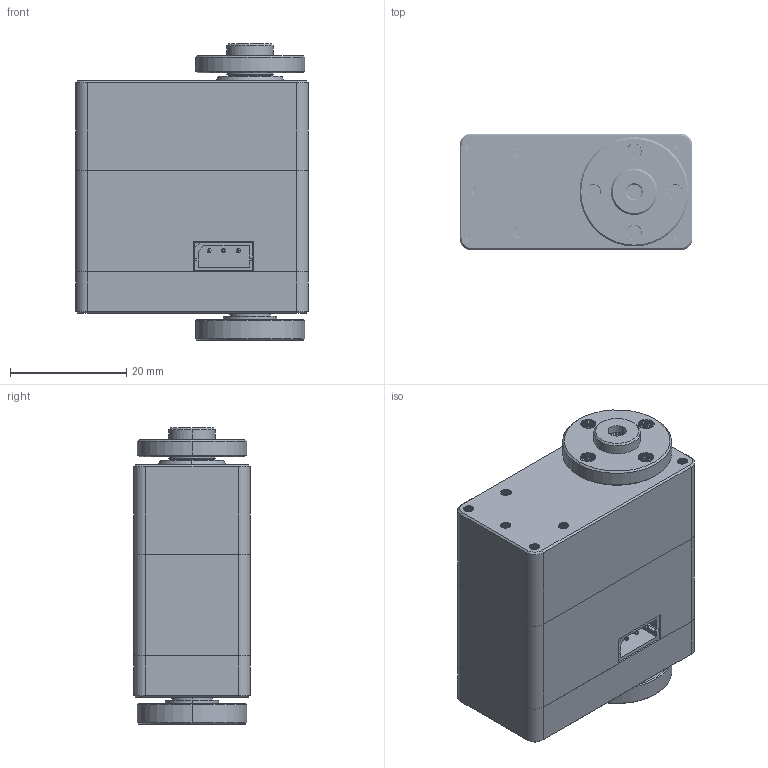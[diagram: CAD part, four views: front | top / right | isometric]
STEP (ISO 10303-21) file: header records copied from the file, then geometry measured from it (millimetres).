
FILE_DESCRIPTION((''),'2;1');
FILE_NAME('46-378_20201127_ASM','2020-11-27T',('WUSALT01'),(''),'PRO/ENGINEER BY PARAMETRIC TECHNOLOGY CORPORATION, 2008380','PRO/ENGINEER BY PARAMETRIC TECHNOLOGY CORPORATION, 2008380','');
FILE_SCHEMA(('AUTOMOTIVE_DESIGN_CC2 { 1 2 10303 214 -1 1 5 2 }'));
Length unit declared in the file: millimetre
Products named in the file (25): WJ-WK00-0012_21; 6312_ASM_19_ASM_1_ASM_2_ASM_1_A_ASM; 6312_ASM_ASM_1_ASM_1_ASM_1_ASM__ASM; 6312_ASM_ASM_2_ASM_1_ASM_1_ASM__ASM; 6312_ASM_1_ASM_1_ASM_1_ASM_1_AS_ASM; 4-28-738_ASM_1_ASM_1_ASM_1_ASM__ASM; 4-28-738-00_ASM_1_ASM_1_ASM_1_A_ASM; 4-28-738-00_ASM_1_ASM_1_ASM_1_ASM; 4-28-738-00_ASM_1_ASM_1_ASM; CHOUCHENG_1; OUTPUTGEAR_1; WJ-WK00-0018_45; WJ-WK00-00XX_53; M20X20_2; WJ-BB00-0070-25T_1; MF85ZZ_1; WJ-BB00-0071_1; PCB-A_8; MAINPCB_2; 3PIN-1_1; PAIZHING2-54_1; SCS40-PCBA_ASM_5_ASM; WJ-FDP0-0010_1; 46-378_ASM_33_ASM; 46-378_20201127_ASM
Assembly tree (26 placements, depth 11):
  46-378_20201127_ASM
    46-378_ASM_33_ASM
      4-28-738-00_ASM_1_ASM_1_ASM
        4-28-738-00_ASM_1_ASM_1_ASM_1_ASM
          4-28-738-00_ASM_1_ASM_1_ASM_1_A_ASM
            4-28-738_ASM_1_ASM_1_ASM_1_ASM__ASM
              6312_ASM_1_ASM_1_ASM_1_ASM_1_AS_ASM
                6312_ASM_ASM_2_ASM_1_ASM_1_ASM__ASM
                  6312_ASM_ASM_1_ASM_1_ASM_1_ASM__ASM
      CHOUCHENG_1  x2
      OUTPUTGEAR_1
      WJ-WK00-0018_45
      WJ-WK00-00XX_53
      M20X20_2
      WJ-BB00-0070-25T_1
      MF85ZZ_1
      WJ-BB00-0071_1
      SCS40-PCBA_ASM_5_ASM
        PCB-A_8
        MAINPCB_2
        3PIN-1_1  x2
        PAIZHING2-54_1
      WJ-FDP0-0010_1
Bounding box: 40 x 20 x 50.95 mm (x, y, z)
Volume: 12574.6 mm3; surface area: 20025.3 mm2
Topology: 16 solids, 16 shells, 2007 faces, 5722 edges, 3803 vertices
Faces by surface type: cylinder 1192, plane 390, bspline 238, cone 101, extrusion 84, torus 2
Entity records: 123908 total; most frequent: CARTESIAN_POINT 68833, ORIENTED_EDGE 10956, DIRECTION 8459, EDGE_CURVE 5478, VERTEX_POINT 3655, AXIS2_PLACEMENT_3D 3114, PRESENTATION_STYLE_ASSIGNMENT 2401, STYLED_ITEM 2398
